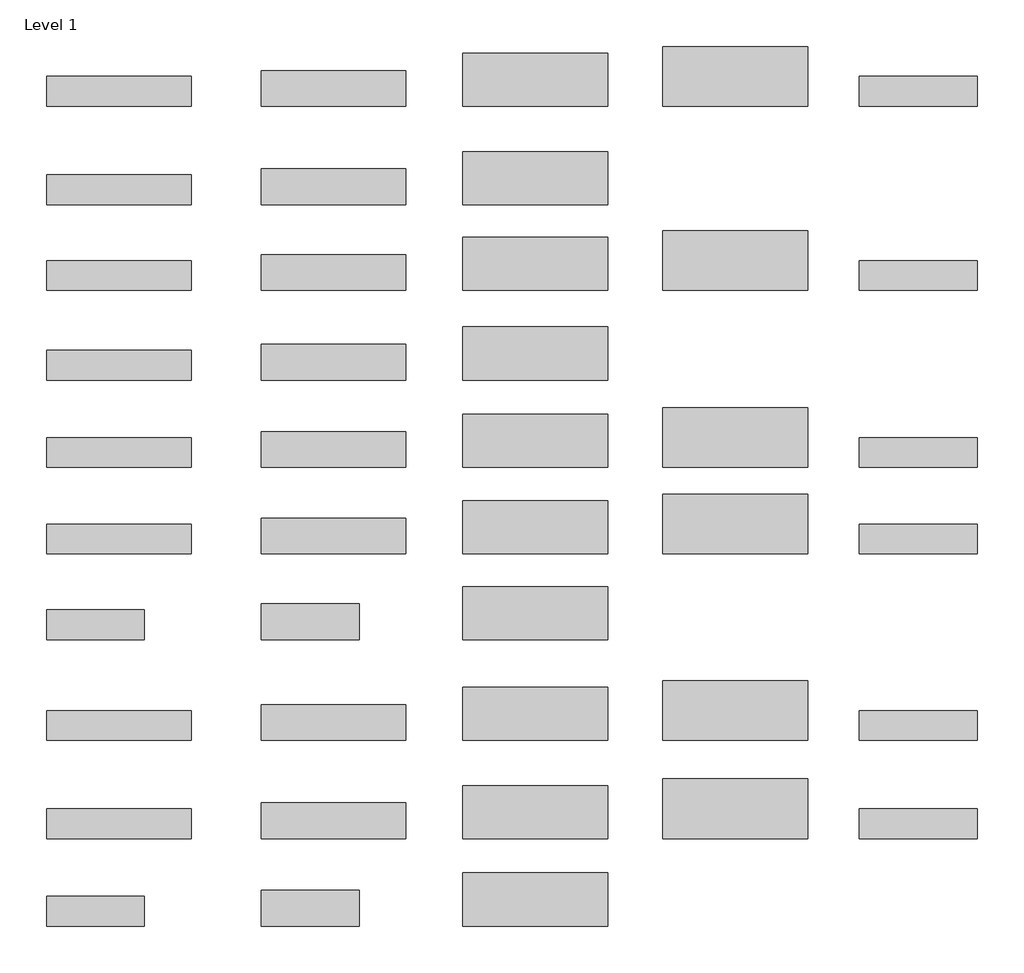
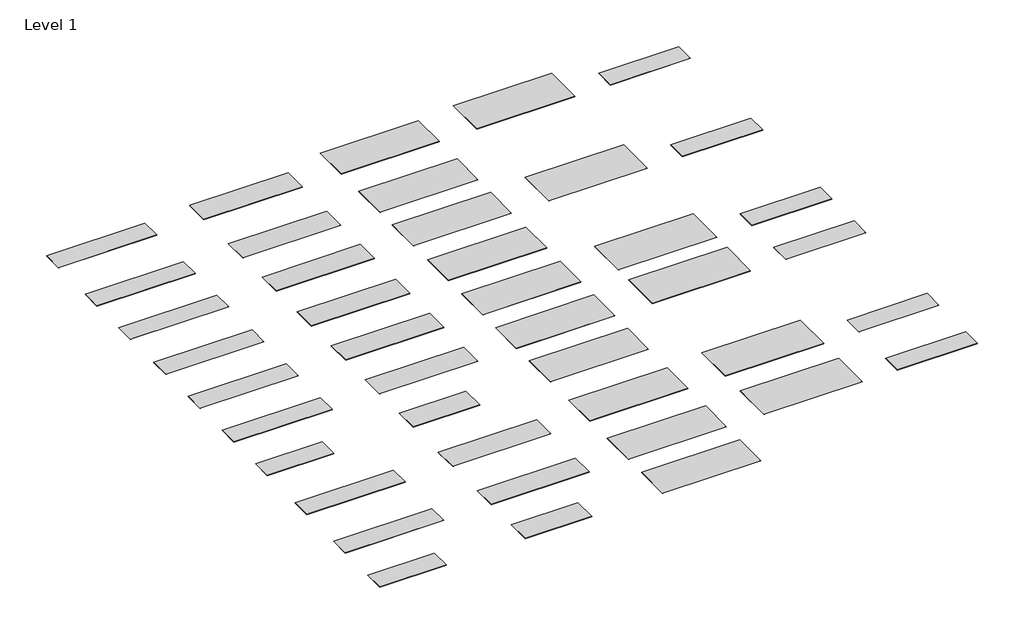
# One storey: 42 proxies.
"""IFC4 building model written with IfcOpenShell, lengths in millimetres."""

from ifc_helpers import new_model, si_unit, origin, place, context, project, spatial, transform, mapped, element, save
from components import g001_desert_sand_12mm_1350x3680mm_c2ce3097, g001_desert_sand_12mm_1520x3680mm_bc4f7f2a, g001_desert_sand_12mm_760x3680mm_7f56e2ab, g001_desert_sand_12mm_910x3680mm_ebb0e17e, g001_desert_sand_20mm_760x3000mm_a6e596b7, g002_gray_sand_6mm_760x2490mm_c0a7b58a, g002_gray_sand_6mm_910x2490mm_29e5721c

model = new_model("IFC4")

# Units and contexts
model_context = context("Model", 3, world=origin())
ifc_project = project(units=[si_unit("LENGTHUNIT", "METRE", prefix="MILLI")], contexts=[model_context])

# Site, building, storey
site = spatial("IfcSite", under=ifc_project)
building = spatial("IfcBuilding", under=site)
storey = spatial("IfcBuildingStorey", under=building, Name="Level 1", Elevation=0.0)

# Proxies
placement = place(None, origin())
g001_desert_sand_12mm_1350x3680mm_shape = g001_desert_sand_12mm_1350x3680mm_c2ce3097(model_context)
element("IfcBuildingElementProxy", 1, Name="Kitchen_Counter-Tops_Indoor-Materials_HIMACS_Sand&Perl : G001_Desert-Sand_12mm_1350x3680mm", ObjectType="Kitchen_Counter-Tops_Indoor-Materials_HIMACS_Sand&Perl : G001_Desert-Sand_12mm_1350x3680mm", at=placement, inside=storey, context=model_context, shape_type="MappedRepresentation", body=[
    mapped(g001_desert_sand_12mm_1350x3680mm_shape, transform((-10223.9972316, -9470.4390028, 0.0), x_axis=(1.0, 0.0, 0.0), y_axis=(0.0, 1.0, 0.0), z_axis=(0.0, 0.0, 1.0))),
])
g001_desert_sand_12mm_1520x3680mm_shape = g001_desert_sand_12mm_1520x3680mm_bc4f7f2a(model_context)
element("IfcBuildingElementProxy", 2, Name="Kitchen_Counter-Tops_Indoor-Materials_HIMACS_Sand&Perl : G001_Desert-Sand_12mm_1520x3680mm", ObjectType="Kitchen_Counter-Tops_Indoor-Materials_HIMACS_Sand&Perl : G001_Desert-Sand_12mm_1520x3680mm", at=placement, inside=storey, context=model_context, shape_type="MappedRepresentation", body=[
    mapped(g001_desert_sand_12mm_1520x3680mm_shape, transform((-5143.6141969, -9385.4390028, 0.0), x_axis=(1.0, 0.0, 0.0), y_axis=(0.0, 1.0, 0.0), z_axis=(0.0, 0.0, 1.0))),
])
g001_desert_sand_12mm_760x3680mm_shape = g001_desert_sand_12mm_760x3680mm_7f56e2ab(model_context)
element("IfcBuildingElementProxy", 3, Name="Kitchen_Counter-Tops_Indoor-Materials_HIMACS_Sand&Perl : G001_Desert-Sand_12mm_760x3680mm", ObjectType="Kitchen_Counter-Tops_Indoor-Materials_HIMACS_Sand&Perl : G001_Desert-Sand_12mm_760x3680mm", at=placement, inside=storey, context=model_context, shape_type="MappedRepresentation", body=[
    mapped(g001_desert_sand_12mm_760x3680mm_shape, transform((-20810.4174913, -9765.4390028, 0.0), x_axis=(1.0, 0.0, 0.0), y_axis=(0.0, 1.0, 0.0), z_axis=(0.0, 0.0, 1.0))),
])
g001_desert_sand_12mm_910x3680mm_shape = g001_desert_sand_12mm_910x3680mm_ebb0e17e(model_context)
element("IfcBuildingElementProxy", 4, Name="Kitchen_Counter-Tops_Indoor-Materials_HIMACS_Sand&Perl : G001_Desert-Sand_12mm_910x3680mm", ObjectType="Kitchen_Counter-Tops_Indoor-Materials_HIMACS_Sand&Perl : G001_Desert-Sand_12mm_910x3680mm", at=placement, inside=storey, context=model_context, shape_type="MappedRepresentation", body=[
    mapped(g001_desert_sand_12mm_910x3680mm_shape, transform((-15354.9920302, -9690.4390028, 0.0), x_axis=(1.0, 0.0, 0.0), y_axis=(0.0, 1.0, 0.0), z_axis=(0.0, 0.0, 1.0))),
])
g001_desert_sand_20mm_760x3000mm_shape = g001_desert_sand_20mm_760x3000mm_a6e596b7(model_context)
element("IfcBuildingElementProxy", 5, Name="Kitchen_Counter-Tops_Indoor-Materials_HIMACS_Sand&Perl : G001_Desert-Sand_20mm_760x3000mm", ObjectType="Kitchen_Counter-Tops_Indoor-Materials_HIMACS_Sand&Perl : G001_Desert-Sand_20mm_760x3000mm", at=placement, inside=storey, context=model_context, shape_type="MappedRepresentation", body=[
    mapped(g001_desert_sand_20mm_760x3000mm_shape, transform((-483.6846375, -9765.4390028, 0.0), x_axis=(1.0, 0.0, 0.0), y_axis=(0.0, 1.0, 0.0), z_axis=(0.0, 0.0, 1.0))),
])
element("IfcBuildingElementProxy", 6, Name="Kitchen_Counter-Tops_Indoor-Materials_HIMACS_Sand&Perl : G002_Gray-Sand_12mm_1350x3680mm", ObjectType="Kitchen_Counter-Tops_Indoor-Materials_HIMACS_Sand&Perl : G002_Gray-Sand_12mm_1350x3680mm", at=placement, inside=storey, context=model_context, shape_type="MappedRepresentation", body=[
    mapped(g001_desert_sand_12mm_1350x3680mm_shape, transform((-10223.9972316, -11670.4390028, 0.0), x_axis=(1.0, 0.0, 0.0), y_axis=(0.0, 1.0, 0.0), z_axis=(0.0, 0.0, 1.0))),
])
element("IfcBuildingElementProxy", 7, Name="Kitchen_Counter-Tops_Indoor-Materials_HIMACS_Sand&Perl : G002_Gray-Sand_12mm_1520x3680mm", ObjectType="Kitchen_Counter-Tops_Indoor-Materials_HIMACS_Sand&Perl : G002_Gray-Sand_12mm_1520x3680mm", at=placement, inside=storey, context=model_context, shape_type="MappedRepresentation", body=[
    mapped(g001_desert_sand_12mm_1520x3680mm_shape, transform((-5143.6141969, -11585.4390028, 0.0), x_axis=(1.0, 0.0, 0.0), y_axis=(0.0, 1.0, 0.0), z_axis=(0.0, 0.0, 1.0))),
])
element("IfcBuildingElementProxy", 8, Name="Kitchen_Counter-Tops_Indoor-Materials_HIMACS_Sand&Perl : G002_Gray-Sand_12mm_760x3680mm", ObjectType="Kitchen_Counter-Tops_Indoor-Materials_HIMACS_Sand&Perl : G002_Gray-Sand_12mm_760x3680mm", at=placement, inside=storey, context=model_context, shape_type="MappedRepresentation", body=[
    mapped(g001_desert_sand_12mm_760x3680mm_shape, transform((-20810.4174913, -11965.4390028, 0.0), x_axis=(1.0, 0.0, 0.0), y_axis=(0.0, 1.0, 0.0), z_axis=(0.0, 0.0, 1.0))),
])
element("IfcBuildingElementProxy", 9, Name="Kitchen_Counter-Tops_Indoor-Materials_HIMACS_Sand&Perl : G002_Gray-Sand_12mm_910x3680mm", ObjectType="Kitchen_Counter-Tops_Indoor-Materials_HIMACS_Sand&Perl : G002_Gray-Sand_12mm_910x3680mm", at=placement, inside=storey, context=model_context, shape_type="MappedRepresentation", body=[
    mapped(g001_desert_sand_12mm_910x3680mm_shape, transform((-15354.9920302, -11890.4390028, 0.0), x_axis=(1.0, 0.0, 0.0), y_axis=(0.0, 1.0, 0.0), z_axis=(0.0, 0.0, 1.0))),
])
element("IfcBuildingElementProxy", 10, Name="Kitchen_Counter-Tops_Indoor-Materials_HIMACS_Sand&Perl : G002_Gray-Sand_20mm_760x3000mm", ObjectType="Kitchen_Counter-Tops_Indoor-Materials_HIMACS_Sand&Perl : G002_Gray-Sand_20mm_760x3000mm", at=placement, inside=storey, context=model_context, shape_type="MappedRepresentation", body=[
    mapped(g001_desert_sand_20mm_760x3000mm_shape, transform((-483.6846375, -11965.4390028, 0.0), x_axis=(1.0, 0.0, 0.0), y_axis=(0.0, 1.0, 0.0), z_axis=(0.0, 0.0, 1.0))),
])
element("IfcBuildingElementProxy", 11, Name="Kitchen_Counter-Tops_Indoor-Materials_HIMACS_Sand&Perl : G002_Gray-Sand_6mm_1350x3680mm", ObjectType="Kitchen_Counter-Tops_Indoor-Materials_HIMACS_Sand&Perl : G002_Gray-Sand_6mm_1350x3680mm", at=placement, inside=storey, context=model_context, shape_type="MappedRepresentation", body=[
    mapped(g001_desert_sand_12mm_1350x3680mm_shape, transform((-10223.9972316, -13850.4390028, 0.0), x_axis=(1.0, 0.0, 0.0), y_axis=(0.0, 1.0, 0.0), z_axis=(0.0, 0.0, 1.0))),
])
g002_gray_sand_6mm_760x2490mm_shape = g002_gray_sand_6mm_760x2490mm_c0a7b58a(model_context)
element("IfcBuildingElementProxy", 12, Name="Kitchen_Counter-Tops_Indoor-Materials_HIMACS_Sand&Perl : G002_Gray-Sand_6mm_760x2490mm", ObjectType="Kitchen_Counter-Tops_Indoor-Materials_HIMACS_Sand&Perl : G002_Gray-Sand_6mm_760x2490mm", at=placement, inside=storey, context=model_context, shape_type="MappedRepresentation", body=[
    mapped(g002_gray_sand_6mm_760x2490mm_shape, transform((-21405.4174913, -14145.4390028, 0.0), x_axis=(1.0, 0.0, 0.0), y_axis=(0.0, 1.0, 0.0), z_axis=(0.0, 0.0, 1.0))),
])
g002_gray_sand_6mm_910x2490mm_shape = g002_gray_sand_6mm_910x2490mm_29e5721c(model_context)
element("IfcBuildingElementProxy", 13, Name="Kitchen_Counter-Tops_Indoor-Materials_HIMACS_Sand&Perl : G002_Gray-Sand_6mm_910x2490mm", ObjectType="Kitchen_Counter-Tops_Indoor-Materials_HIMACS_Sand&Perl : G002_Gray-Sand_6mm_910x2490mm", at=placement, inside=storey, context=model_context, shape_type="MappedRepresentation", body=[
    mapped(g002_gray_sand_6mm_910x2490mm_shape, transform((-15949.9920302, -14070.4390028, 0.0), x_axis=(1.0, 0.0, 0.0), y_axis=(0.0, 1.0, 0.0), z_axis=(0.0, 0.0, 1.0))),
])
element("IfcBuildingElementProxy", 14, Name="Kitchen_Counter-Tops_Indoor-Materials_HIMACS_Sand&Perl : G009_Black-Sand_12mm_1350x3680mm", ObjectType="Kitchen_Counter-Tops_Indoor-Materials_HIMACS_Sand&Perl : G009_Black-Sand_12mm_1350x3680mm", at=placement, inside=storey, context=model_context, shape_type="MappedRepresentation", body=[
    mapped(g001_desert_sand_12mm_1350x3680mm_shape, transform((-10223.9972316, -16410.4390028, 0.0), x_axis=(1.0, 0.0, 0.0), y_axis=(0.0, 1.0, 0.0), z_axis=(0.0, 0.0, 1.0))),
])
element("IfcBuildingElementProxy", 15, Name="Kitchen_Counter-Tops_Indoor-Materials_HIMACS_Sand&Perl : G009_Black-Sand_12mm_1520x3680mm", ObjectType="Kitchen_Counter-Tops_Indoor-Materials_HIMACS_Sand&Perl : G009_Black-Sand_12mm_1520x3680mm", at=placement, inside=storey, context=model_context, shape_type="MappedRepresentation", body=[
    mapped(g001_desert_sand_12mm_1520x3680mm_shape, transform((-5143.6141969, -16325.4390028, 0.0), x_axis=(1.0, 0.0, 0.0), y_axis=(0.0, 1.0, 0.0), z_axis=(0.0, 0.0, 1.0))),
])
element("IfcBuildingElementProxy", 16, Name="Kitchen_Counter-Tops_Indoor-Materials_HIMACS_Sand&Perl : G009_Black-Sand_12mm_760x3680mm", ObjectType="Kitchen_Counter-Tops_Indoor-Materials_HIMACS_Sand&Perl : G009_Black-Sand_12mm_760x3680mm", at=placement, inside=storey, context=model_context, shape_type="MappedRepresentation", body=[
    mapped(g001_desert_sand_12mm_760x3680mm_shape, transform((-20810.4174913, -16705.4390028, 0.0), x_axis=(1.0, 0.0, 0.0), y_axis=(0.0, 1.0, 0.0), z_axis=(0.0, 0.0, 1.0))),
])
element("IfcBuildingElementProxy", 17, Name="Kitchen_Counter-Tops_Indoor-Materials_HIMACS_Sand&Perl : G009_Black-Sand_12mm_910x3680mm", ObjectType="Kitchen_Counter-Tops_Indoor-Materials_HIMACS_Sand&Perl : G009_Black-Sand_12mm_910x3680mm", at=placement, inside=storey, context=model_context, shape_type="MappedRepresentation", body=[
    mapped(g001_desert_sand_12mm_910x3680mm_shape, transform((-15354.9920302, -16630.4390028, 0.0), x_axis=(1.0, 0.0, 0.0), y_axis=(0.0, 1.0, 0.0), z_axis=(0.0, 0.0, 1.0))),
])
element("IfcBuildingElementProxy", 18, Name="Kitchen_Counter-Tops_Indoor-Materials_HIMACS_Sand&Perl : G009_Black-Sand_20mm_760x3000mm", ObjectType="Kitchen_Counter-Tops_Indoor-Materials_HIMACS_Sand&Perl : G009_Black-Sand_20mm_760x3000mm", at=placement, inside=storey, context=model_context, shape_type="MappedRepresentation", body=[
    mapped(g001_desert_sand_20mm_760x3000mm_shape, transform((-483.6846375, -16705.4390028, 0.0), x_axis=(1.0, 0.0, 0.0), y_axis=(0.0, 1.0, 0.0), z_axis=(0.0, 0.0, 1.0))),
])
element("IfcBuildingElementProxy", 19, Name="Kitchen_Counter-Tops_Indoor-Materials_HIMACS_Sand&Perl : G010_Black-Pearl_12mm_1350x3680mm", ObjectType="Kitchen_Counter-Tops_Indoor-Materials_HIMACS_Sand&Perl : G010_Black-Pearl_12mm_1350x3680mm", at=placement, inside=storey, context=model_context, shape_type="MappedRepresentation", body=[
    mapped(g001_desert_sand_12mm_1350x3680mm_shape, transform((-10223.9972316, -18910.4390028, 0.0), x_axis=(1.0, 0.0, 0.0), y_axis=(0.0, 1.0, 0.0), z_axis=(0.0, 0.0, 1.0))),
])
element("IfcBuildingElementProxy", 20, Name="Kitchen_Counter-Tops_Indoor-Materials_HIMACS_Sand&Perl : G010_Black-Pearl_12mm_1520x3680mm", ObjectType="Kitchen_Counter-Tops_Indoor-Materials_HIMACS_Sand&Perl : G010_Black-Pearl_12mm_1520x3680mm", at=placement, inside=storey, context=model_context, shape_type="MappedRepresentation", body=[
    mapped(g001_desert_sand_12mm_1520x3680mm_shape, transform((-5143.6141969, -18825.4390028, 0.0), x_axis=(1.0, 0.0, 0.0), y_axis=(0.0, 1.0, 0.0), z_axis=(0.0, 0.0, 1.0))),
])
element("IfcBuildingElementProxy", 21, Name="Kitchen_Counter-Tops_Indoor-Materials_HIMACS_Sand&Perl : G010_Black-Pearl_12mm_760x3680mm", ObjectType="Kitchen_Counter-Tops_Indoor-Materials_HIMACS_Sand&Perl : G010_Black-Pearl_12mm_760x3680mm", at=placement, inside=storey, context=model_context, shape_type="MappedRepresentation", body=[
    mapped(g001_desert_sand_12mm_760x3680mm_shape, transform((-20810.4174913, -19205.4390028, 0.0), x_axis=(1.0, 0.0, 0.0), y_axis=(0.0, 1.0, 0.0), z_axis=(0.0, 0.0, 1.0))),
])
element("IfcBuildingElementProxy", 22, Name="Kitchen_Counter-Tops_Indoor-Materials_HIMACS_Sand&Perl : G010_Black-Pearl_12mm_910x3680mm", ObjectType="Kitchen_Counter-Tops_Indoor-Materials_HIMACS_Sand&Perl : G010_Black-Pearl_12mm_910x3680mm", at=placement, inside=storey, context=model_context, shape_type="MappedRepresentation", body=[
    mapped(g001_desert_sand_12mm_910x3680mm_shape, transform((-15354.9920302, -19130.4390028, 0.0), x_axis=(1.0, 0.0, 0.0), y_axis=(0.0, 1.0, 0.0), z_axis=(0.0, 0.0, 1.0))),
])
element("IfcBuildingElementProxy", 23, Name="Kitchen_Counter-Tops_Indoor-Materials_HIMACS_Sand&Perl : G010_Black-Pearl_20mm_760x3000mm", ObjectType="Kitchen_Counter-Tops_Indoor-Materials_HIMACS_Sand&Perl : G010_Black-Pearl_20mm_760x3000mm", at=placement, inside=storey, context=model_context, shape_type="MappedRepresentation", body=[
    mapped(g001_desert_sand_20mm_760x3000mm_shape, transform((-483.6846375, -19205.4390028, 0.0), x_axis=(1.0, 0.0, 0.0), y_axis=(0.0, 1.0, 0.0), z_axis=(0.0, 0.0, 1.0))),
])
element("IfcBuildingElementProxy", 24, Name="Kitchen_Counter-Tops_Indoor-Materials_HIMACS_Sand&Perl : G010_Black-Pearl_6mm_1350x3680mm", ObjectType="Kitchen_Counter-Tops_Indoor-Materials_HIMACS_Sand&Perl : G010_Black-Pearl_6mm_1350x3680mm", at=placement, inside=storey, context=model_context, shape_type="MappedRepresentation", body=[
    mapped(g001_desert_sand_12mm_1350x3680mm_shape, transform((-10223.9972316, -21130.4390028, 0.0), x_axis=(1.0, 0.0, 0.0), y_axis=(0.0, 1.0, 0.0), z_axis=(0.0, 0.0, 1.0))),
])
element("IfcBuildingElementProxy", 25, Name="Kitchen_Counter-Tops_Indoor-Materials_HIMACS_Sand&Perl : G010_Black-Pearl_6mm_760x2490mm", ObjectType="Kitchen_Counter-Tops_Indoor-Materials_HIMACS_Sand&Perl : G010_Black-Pearl_6mm_760x2490mm", at=placement, inside=storey, context=model_context, shape_type="MappedRepresentation", body=[
    mapped(g002_gray_sand_6mm_760x2490mm_shape, transform((-21405.4174913, -21425.4390028, 0.0), x_axis=(1.0, 0.0, 0.0), y_axis=(0.0, 1.0, 0.0), z_axis=(0.0, 0.0, 1.0))),
])
element("IfcBuildingElementProxy", 26, Name="Kitchen_Counter-Tops_Indoor-Materials_HIMACS_Sand&Perl : G010_Black-Pearl_6mm_910x2490mm", ObjectType="Kitchen_Counter-Tops_Indoor-Materials_HIMACS_Sand&Perl : G010_Black-Pearl_6mm_910x2490mm", at=placement, inside=storey, context=model_context, shape_type="MappedRepresentation", body=[
    mapped(g002_gray_sand_6mm_910x2490mm_shape, transform((-15949.9920302, -21350.4390028, 0.0), x_axis=(1.0, 0.0, 0.0), y_axis=(0.0, 1.0, 0.0), z_axis=(0.0, 0.0, 1.0))),
])
element("IfcBuildingElementProxy", 27, Name="Kitchen_Counter-Tops_Indoor-Materials_HIMACS_Sand&Perl : G048_Beach-Sand_12mm_1350x3680mm", ObjectType="Kitchen_Counter-Tops_Indoor-Materials_HIMACS_Sand&Perl : G048_Beach-Sand_12mm_1350x3680mm", at=placement, inside=storey, context=model_context, shape_type="MappedRepresentation", body=[
    mapped(g001_desert_sand_12mm_1350x3680mm_shape, transform((-10223.9972316, -4970.4390028, 0.0), x_axis=(1.0, 0.0, 0.0), y_axis=(0.0, 1.0, 0.0), z_axis=(0.0, 0.0, 1.0))),
])
element("IfcBuildingElementProxy", 28, Name="Kitchen_Counter-Tops_Indoor-Materials_HIMACS_Sand&Perl : G048_Beach-Sand_12mm_1520x3680mm", ObjectType="Kitchen_Counter-Tops_Indoor-Materials_HIMACS_Sand&Perl : G048_Beach-Sand_12mm_1520x3680mm", at=placement, inside=storey, context=model_context, shape_type="MappedRepresentation", body=[
    mapped(g001_desert_sand_12mm_1520x3680mm_shape, transform((-5143.6141969, -4885.4390028, 0.0), x_axis=(1.0, 0.0, 0.0), y_axis=(0.0, 1.0, 0.0), z_axis=(0.0, 0.0, 1.0))),
])
element("IfcBuildingElementProxy", 29, Name="Kitchen_Counter-Tops_Indoor-Materials_HIMACS_Sand&Perl : G048_Beach-Sand_12mm_760x3680mm", ObjectType="Kitchen_Counter-Tops_Indoor-Materials_HIMACS_Sand&Perl : G048_Beach-Sand_12mm_760x3680mm", at=placement, inside=storey, context=model_context, shape_type="MappedRepresentation", body=[
    mapped(g001_desert_sand_12mm_760x3680mm_shape, transform((-20810.4174913, -5265.4390028, 0.0), x_axis=(1.0, 0.0, 0.0), y_axis=(0.0, 1.0, 0.0), z_axis=(0.0, 0.0, 1.0))),
])
element("IfcBuildingElementProxy", 30, Name="Kitchen_Counter-Tops_Indoor-Materials_HIMACS_Sand&Perl : G048_Beach-Sand_12mm_910x3680mm", ObjectType="Kitchen_Counter-Tops_Indoor-Materials_HIMACS_Sand&Perl : G048_Beach-Sand_12mm_910x3680mm", at=placement, inside=storey, context=model_context, shape_type="MappedRepresentation", body=[
    mapped(g001_desert_sand_12mm_910x3680mm_shape, transform((-15354.9920302, -5190.4390028, 0.0), x_axis=(1.0, 0.0, 0.0), y_axis=(0.0, 1.0, 0.0), z_axis=(0.0, 0.0, 1.0))),
])
element("IfcBuildingElementProxy", 31, Name="Kitchen_Counter-Tops_Indoor-Materials_HIMACS_Sand&Perl : G048_Beach-Sand_20mm_760x3000mm", ObjectType="Kitchen_Counter-Tops_Indoor-Materials_HIMACS_Sand&Perl : G048_Beach-Sand_20mm_760x3000mm", at=placement, inside=storey, context=model_context, shape_type="MappedRepresentation", body=[
    mapped(g001_desert_sand_20mm_760x3000mm_shape, transform((-483.6846375, -5265.4390028, 0.0), x_axis=(1.0, 0.0, 0.0), y_axis=(0.0, 1.0, 0.0), z_axis=(0.0, 0.0, 1.0))),
])
element("IfcBuildingElementProxy", 32, Name="Kitchen_Counter-Tops_Indoor-Materials_HIMACS_Sand&Perl : G048_Beach-Sand_9mm_1350x3680mm", ObjectType="Kitchen_Counter-Tops_Indoor-Materials_HIMACS_Sand&Perl : G048_Beach-Sand_9mm_1350x3680mm", at=placement, inside=storey, context=model_context, shape_type="MappedRepresentation", body=[
    mapped(g001_desert_sand_12mm_1350x3680mm_shape, transform((-10223.9972316, -7250.4390028, 0.0), x_axis=(1.0, 0.0, 0.0), y_axis=(0.0, 1.0, 0.0), z_axis=(0.0, 0.0, 1.0))),
])
element("IfcBuildingElementProxy", 33, Name="Kitchen_Counter-Tops_Indoor-Materials_HIMACS_Sand&Perl : G048_Beach-Sand_9mm_760x3680mm", ObjectType="Kitchen_Counter-Tops_Indoor-Materials_HIMACS_Sand&Perl : G048_Beach-Sand_9mm_760x3680mm", at=placement, inside=storey, context=model_context, shape_type="MappedRepresentation", body=[
    mapped(g001_desert_sand_12mm_760x3680mm_shape, transform((-20810.4174913, -7545.4390028, 0.0), x_axis=(1.0, 0.0, 0.0), y_axis=(0.0, 1.0, 0.0), z_axis=(0.0, 0.0, 1.0))),
])
element("IfcBuildingElementProxy", 34, Name="Kitchen_Counter-Tops_Indoor-Materials_HIMACS_Sand&Perl : G048_Beach-Sand_9mm_910x3680mm", ObjectType="Kitchen_Counter-Tops_Indoor-Materials_HIMACS_Sand&Perl : G048_Beach-Sand_9mm_910x3680mm", at=placement, inside=storey, context=model_context, shape_type="MappedRepresentation", body=[
    mapped(g001_desert_sand_12mm_910x3680mm_shape, transform((-15354.9920302, -7470.4390028, 0.0), x_axis=(1.0, 0.0, 0.0), y_axis=(0.0, 1.0, 0.0), z_axis=(0.0, 0.0, 1.0))),
])
element("IfcBuildingElementProxy", 35, Name="Kitchen_Counter-Tops_Indoor-Materials_HIMACS_Sand&Perl : G108_Lunar-Sand_12mm_1350x3680mm", ObjectType="Kitchen_Counter-Tops_Indoor-Materials_HIMACS_Sand&Perl : G108_Lunar-Sand_12mm_1350x3680mm", at=placement, inside=storey, context=model_context, shape_type="MappedRepresentation", body=[
    mapped(g001_desert_sand_12mm_1350x3680mm_shape, transform((-10223.9972316, -290.4390028, 0.0), x_axis=(1.0, 0.0, 0.0), y_axis=(0.0, 1.0, 0.0), z_axis=(0.0, 0.0, 1.0))),
])
element("IfcBuildingElementProxy", 36, Name="Kitchen_Counter-Tops_Indoor-Materials_HIMACS_Sand&Perl : G108_Lunar-Sand_12mm_1520x3680mm", ObjectType="Kitchen_Counter-Tops_Indoor-Materials_HIMACS_Sand&Perl : G108_Lunar-Sand_12mm_1520x3680mm", at=placement, inside=storey, context=model_context, shape_type="MappedRepresentation", body=[
    mapped(g001_desert_sand_12mm_1520x3680mm_shape, transform((-5143.6141969, -205.4390028, 0.0), x_axis=(1.0, 0.0, 0.0), y_axis=(0.0, 1.0, 0.0), z_axis=(0.0, 0.0, 1.0))),
])
element("IfcBuildingElementProxy", 37, Name="Kitchen_Counter-Tops_Indoor-Materials_HIMACS_Sand&Perl : G108_Lunar-Sand_12mm_760x3680mm", ObjectType="Kitchen_Counter-Tops_Indoor-Materials_HIMACS_Sand&Perl : G108_Lunar-Sand_12mm_760x3680mm", at=placement, inside=storey, context=model_context, shape_type="MappedRepresentation", body=[
    mapped(g001_desert_sand_12mm_760x3680mm_shape, transform((-20810.4174913, -585.4390028, 0.0), x_axis=(1.0, 0.0, 0.0), y_axis=(0.0, 1.0, 0.0), z_axis=(0.0, 0.0, 1.0))),
])
element("IfcBuildingElementProxy", 38, Name="Kitchen_Counter-Tops_Indoor-Materials_HIMACS_Sand&Perl : G108_Lunar-Sand_12mm_910x3680mm", ObjectType="Kitchen_Counter-Tops_Indoor-Materials_HIMACS_Sand&Perl : G108_Lunar-Sand_12mm_910x3680mm", at=placement, inside=storey, context=model_context, shape_type="MappedRepresentation", body=[
    mapped(g001_desert_sand_12mm_910x3680mm_shape, transform((-15354.9920302, -510.4390028, 0.0), x_axis=(1.0, 0.0, 0.0), y_axis=(0.0, 1.0, 0.0), z_axis=(0.0, 0.0, 1.0))),
])
element("IfcBuildingElementProxy", 39, Name="Kitchen_Counter-Tops_Indoor-Materials_HIMACS_Sand&Perl : G108_Lunar-Sand_20mm_760x3000mm", ObjectType="Kitchen_Counter-Tops_Indoor-Materials_HIMACS_Sand&Perl : G108_Lunar-Sand_20mm_760x3000mm", at=placement, inside=storey, context=model_context, shape_type="MappedRepresentation", body=[
    mapped(g001_desert_sand_20mm_760x3000mm_shape, transform((-483.6846375, -585.4390028, 0.0), x_axis=(1.0, 0.0, 0.0), y_axis=(0.0, 1.0, 0.0), z_axis=(0.0, 0.0, 1.0))),
])
element("IfcBuildingElementProxy", 40, Name="Kitchen_Counter-Tops_Indoor-Materials_HIMACS_Sand&Perl : G108_Lunar-Sand_9mm_1350x3680mm", ObjectType="Kitchen_Counter-Tops_Indoor-Materials_HIMACS_Sand&Perl : G108_Lunar-Sand_9mm_1350x3680mm", at=placement, inside=storey, context=model_context, shape_type="MappedRepresentation", body=[
    mapped(g001_desert_sand_12mm_1350x3680mm_shape, transform((-10223.9972316, -2790.4390028, 0.0), x_axis=(1.0, 0.0, 0.0), y_axis=(0.0, 1.0, 0.0), z_axis=(0.0, 0.0, 1.0))),
])
element("IfcBuildingElementProxy", 41, Name="Kitchen_Counter-Tops_Indoor-Materials_HIMACS_Sand&Perl : G108_Lunar-Sand_9mm_760x3680mm", ObjectType="Kitchen_Counter-Tops_Indoor-Materials_HIMACS_Sand&Perl : G108_Lunar-Sand_9mm_760x3680mm", at=placement, inside=storey, context=model_context, shape_type="MappedRepresentation", body=[
    mapped(g001_desert_sand_12mm_760x3680mm_shape, transform((-20810.4174913, -3085.4390028, 0.0), x_axis=(1.0, 0.0, 0.0), y_axis=(0.0, 1.0, 0.0), z_axis=(0.0, 0.0, 1.0))),
])
element("IfcBuildingElementProxy", 42, Name="Kitchen_Counter-Tops_Indoor-Materials_HIMACS_Sand&Perl : G108_Lunar-Sand_9mm_910x3680mm", ObjectType="Kitchen_Counter-Tops_Indoor-Materials_HIMACS_Sand&Perl : G108_Lunar-Sand_9mm_910x3680mm", at=placement, inside=storey, context=model_context, shape_type="MappedRepresentation", body=[
    mapped(g001_desert_sand_12mm_910x3680mm_shape, transform((-15354.9920302, -3010.4390028, 0.0), x_axis=(1.0, 0.0, 0.0), y_axis=(0.0, 1.0, 0.0), z_axis=(0.0, 0.0, 1.0))),
])

save(model, "model.ifc")
